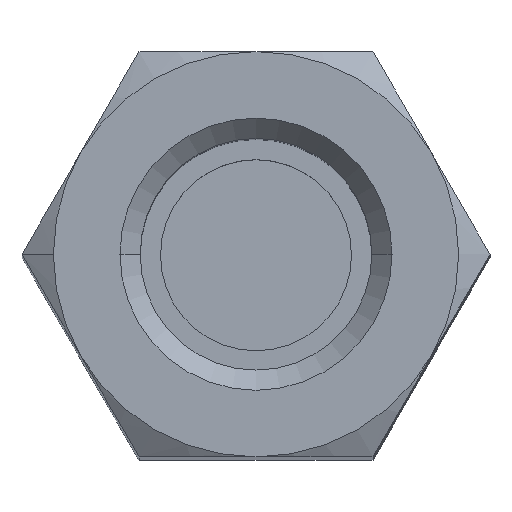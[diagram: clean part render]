
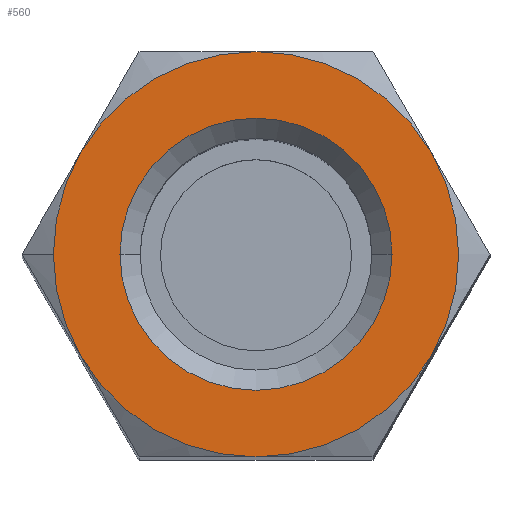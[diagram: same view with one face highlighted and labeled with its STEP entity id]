
A CAD part, top view. The second image highlights one B-rep face of the part: STEP entity #560.
In plain terms, the highlighted planar face has unit normal (0, 0, 1).
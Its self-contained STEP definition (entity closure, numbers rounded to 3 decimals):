
#5 = CARTESIAN_POINT ( 'NONE',  ( 0., 0., 17.5 ) ) ;
#27 = CIRCLE ( 'NONE', #687, 2.35 ) ;
#36 = DIRECTION ( 'NONE',  ( -1., 0., 0. ) ) ;
#47 = ORIENTED_EDGE ( 'NONE', *, *, #860, .T. ) ;
#52 = VERTEX_POINT ( 'NONE', #556 ) ;
#59 = ORIENTED_EDGE ( 'NONE', *, *, #761, .T. ) ;
#76 = EDGE_LOOP ( 'NONE', ( #59, #874 ) ) ;
#78 = CIRCLE ( 'NONE', #688, 2.35 ) ;
#98 = CARTESIAN_POINT ( 'NONE',  ( -2.35, 0., 17.5 ) ) ;
#100 = ORIENTED_EDGE ( 'NONE', *, *, #487, .F. ) ;
#115 = CIRCLE ( 'NONE', #766, 3.5 ) ;
#152 = VERTEX_POINT ( 'NONE', #783 ) ;
#185 = CIRCLE ( 'NONE', #293, 3.5 ) ;
#187 = AXIS2_PLACEMENT_3D ( 'NONE', #505, #852, #1117 ) ;
#195 = DIRECTION ( 'NONE',  ( 1., 0., 0. ) ) ;
#212 = VERTEX_POINT ( 'NONE', #686 ) ;
#220 = CARTESIAN_POINT ( 'NONE',  ( 2.35, 0., 17.5 ) ) ;
#221 = EDGE_CURVE ( 'NONE', #1029, #212, #185, .T. ) ;
#223 = DIRECTION ( 'NONE',  ( -1., 0., 0. ) ) ;
#238 = AXIS2_PLACEMENT_3D ( 'NONE', #496, #775, #324 ) ;
#252 = DIRECTION ( 'NONE',  ( 0., 0., -1. ) ) ;
#279 = DIRECTION ( 'NONE',  ( 0., 0., -1. ) ) ;
#293 = AXIS2_PLACEMENT_3D ( 'NONE', #401, #397, #662 ) ;
#318 = CARTESIAN_POINT ( 'NONE',  ( 3.031, -1.75, 17.5 ) ) ;
#324 = DIRECTION ( 'NONE',  ( -1., 0., 0. ) ) ;
#329 = AXIS2_PLACEMENT_3D ( 'NONE', #870, #705, #543 ) ;
#341 = CARTESIAN_POINT ( 'NONE',  ( -3.031, 1.75, 17.5 ) ) ;
#344 = EDGE_LOOP ( 'NONE', ( #47, #1070, #1125, #711, #425, #345, #100 ) ) ;
#345 = ORIENTED_EDGE ( 'NONE', *, *, #677, .T. ) ;
#369 = VERTEX_POINT ( 'NONE', #341 ) ;
#385 = EDGE_CURVE ( 'NONE', #452, #152, #465, .T. ) ;
#397 = DIRECTION ( 'NONE',  ( 0., 0., 1. ) ) ;
#401 = CARTESIAN_POINT ( 'NONE',  ( 0., 0., 17.5 ) ) ;
#418 = VERTEX_POINT ( 'NONE', #98 ) ;
#419 = CARTESIAN_POINT ( 'NONE',  ( 0., 0., 17.5 ) ) ;
#425 = ORIENTED_EDGE ( 'NONE', *, *, #221, .T. ) ;
#452 = VERTEX_POINT ( 'NONE', #899 ) ;
#459 = FACE_BOUND ( 'NONE', #76, .T. ) ;
#464 = DIRECTION ( 'NONE',  ( -1., 0., 0. ) ) ;
#465 = CIRCLE ( 'NONE', #329, 3.5 ) ;
#487 = EDGE_CURVE ( 'NONE', #369, #52, #910, .T. ) ;
#496 = CARTESIAN_POINT ( 'NONE',  ( 0., 0., 17.5 ) ) ;
#505 = CARTESIAN_POINT ( 'NONE',  ( 0., 0., 17.5 ) ) ;
#515 = DIRECTION ( 'NONE',  ( 0., 0., 1. ) ) ;
#527 = CARTESIAN_POINT ( 'NONE',  ( 0., 0., 17.5 ) ) ;
#542 = AXIS2_PLACEMENT_3D ( 'NONE', #5, #641, #464 ) ;
#543 = DIRECTION ( 'NONE',  ( -1., 0., 0. ) ) ;
#556 = CARTESIAN_POINT ( 'NONE',  ( 0., 3.5, 17.5 ) ) ;
#558 = CIRCLE ( 'NONE', #187, 3.5 ) ;
#560 = ADVANCED_FACE ( 'NONE', ( #459, #657 ), #1101, .F. ) ;
#585 = VERTEX_POINT ( 'NONE', #1122 ) ;
#610 = AXIS2_PLACEMENT_3D ( 'NONE', #649, #1094, #36 ) ;
#641 = DIRECTION ( 'NONE',  ( 0., 0., 1. ) ) ;
#649 = CARTESIAN_POINT ( 'NONE',  ( 0., 0., 17.5 ) ) ;
#657 = FACE_OUTER_BOUND ( 'NONE', #344, .T. ) ;
#662 = DIRECTION ( 'NONE',  ( -1., 0., 0. ) ) ;
#671 = EDGE_CURVE ( 'NONE', #418, #940, #27, .T. ) ;
#677 = EDGE_CURVE ( 'NONE', #212, #52, #558, .T. ) ;
#686 = CARTESIAN_POINT ( 'NONE',  ( 3.031, 1.75, 17.5 ) ) ;
#687 = AXIS2_PLACEMENT_3D ( 'NONE', #759, #1110, #223 ) ;
#688 = AXIS2_PLACEMENT_3D ( 'NONE', #419, #252, #862 ) ;
#705 = DIRECTION ( 'NONE',  ( 0., 0., 1. ) ) ;
#711 = ORIENTED_EDGE ( 'NONE', *, *, #893, .T. ) ;
#727 = EDGE_CURVE ( 'NONE', #585, #452, #837, .T. ) ;
#759 = CARTESIAN_POINT ( 'NONE',  ( 0., 0., 17.5 ) ) ;
#761 = EDGE_CURVE ( 'NONE', #940, #418, #78, .T. ) ;
#766 = AXIS2_PLACEMENT_3D ( 'NONE', #527, #515, #867 ) ;
#775 = DIRECTION ( 'NONE',  ( 0., 0., 1. ) ) ;
#783 = CARTESIAN_POINT ( 'NONE',  ( 0., -3.5, 17.5 ) ) ;
#837 = CIRCLE ( 'NONE', #238, 3.5 ) ;
#852 = DIRECTION ( 'NONE',  ( 0., 0., 1. ) ) ;
#860 = EDGE_CURVE ( 'NONE', #369, #585, #115, .T. ) ;
#862 = DIRECTION ( 'NONE',  ( -1., 0., 0. ) ) ;
#867 = DIRECTION ( 'NONE',  ( -1., 0., 0. ) ) ;
#870 = CARTESIAN_POINT ( 'NONE',  ( 0., 0., 17.5 ) ) ;
#874 = ORIENTED_EDGE ( 'NONE', *, *, #671, .T. ) ;
#893 = EDGE_CURVE ( 'NONE', #152, #1029, #985, .T. ) ;
#899 = CARTESIAN_POINT ( 'NONE',  ( -3.031, -1.75, 17.5 ) ) ;
#910 = CIRCLE ( 'NONE', #610, 3.5 ) ;
#914 = CARTESIAN_POINT ( 'NONE',  ( 0., 0., 17.5 ) ) ;
#940 = VERTEX_POINT ( 'NONE', #220 ) ;
#985 = CIRCLE ( 'NONE', #542, 3.5 ) ;
#1029 = VERTEX_POINT ( 'NONE', #318 ) ;
#1070 = ORIENTED_EDGE ( 'NONE', *, *, #727, .T. ) ;
#1094 = DIRECTION ( 'NONE',  ( 0., 0., -1. ) ) ;
#1101 = PLANE ( 'NONE',  #1114 ) ;
#1110 = DIRECTION ( 'NONE',  ( 0., 0., -1. ) ) ;
#1114 = AXIS2_PLACEMENT_3D ( 'NONE', #914, #279, #195 ) ;
#1117 = DIRECTION ( 'NONE',  ( -1., 0., 0. ) ) ;
#1122 = CARTESIAN_POINT ( 'NONE',  ( -3.5, 0., 17.5 ) ) ;
#1125 = ORIENTED_EDGE ( 'NONE', *, *, #385, .T. ) ;
